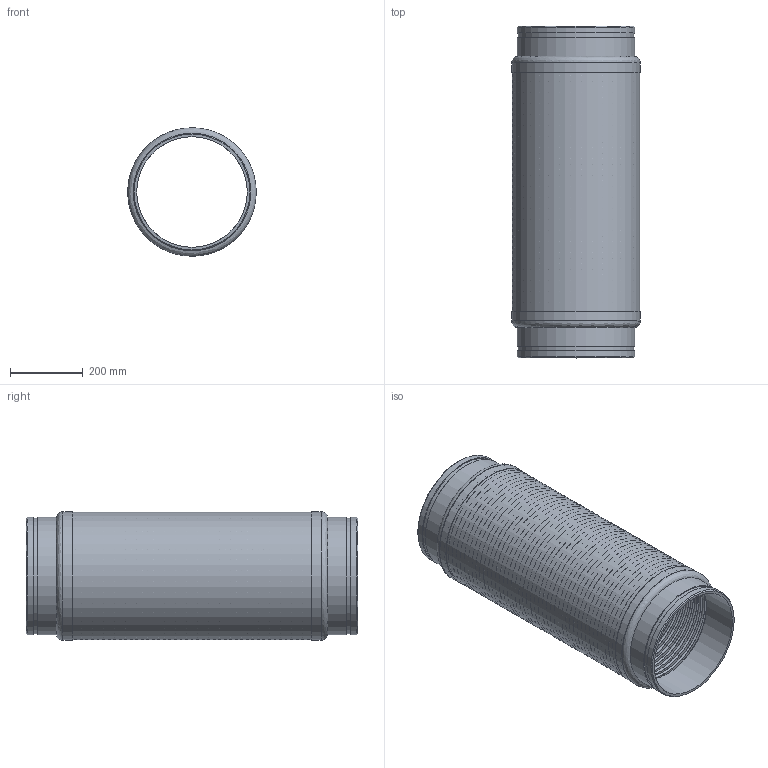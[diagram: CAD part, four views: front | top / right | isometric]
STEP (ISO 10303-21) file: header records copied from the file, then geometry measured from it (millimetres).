
FILE_DESCRIPTION((''),'2;1');
FILE_NAME('C:\2012_Work\Designs\GWN\GWN-12x36.stp','2013-08-13T14:31:54',('KShiels'),(''),'Autodesk Inventor 2012','Autodesk Inventor 2012','');
FILE_SCHEMA(('AUTOMOTIVE_DESIGN { 1 0 10303 214 1 1 1 1 }'));
Length unit declared in the file: inch
Products named in the file (6): GWN-12x36; GWN-12x36_Welds; A-30117-4_12in_GN-BRAID; A-30117-4_12in_GN-BELLOWS; A-30117-4_12in_GN-BRAID-COLLAR; A-30117-4_12in_GN-GROOVED_NIPPLE
Assembly tree (7 placements, depth 2):
  GWN-12x36
    GWN-12x36_Welds
    A-30117-4_12in_GN-BRAID
    A-30117-4_12in_GN-BELLOWS
    A-30117-4_12in_GN-BRAID-COLLAR  x2
    A-30117-4_12in_GN-GROOVED_NIPPLE  x2
Bounding box: 353.92 x 914.4 x 353.92 mm (x, y, z)
Volume: 4324855.7 mm3; surface area: 7401915.4 mm2
Topology: 8 solids, 8 shells, 416 faces, 634 edges, 424 vertices
Faces by surface type: plane 206, torus 190, cylinder 16, bspline 2, cone 2
Full cylindrical faces by diameter (mm): 304.8 x2, 318.313 x2, 323.85 x6, 350.52 x1, 351.536 x3, 353.917 x2
Entity records: 9007 total; most frequent: CARTESIAN_POINT 1928, DIRECTION 1626, ORIENTED_EDGE 818, AXIS2_PLACEMENT_3D 813, EDGE_LOOP 804, EDGE_CURVE 409, VERTEX_POINT 407, FACE_OUTER_BOUND 403
